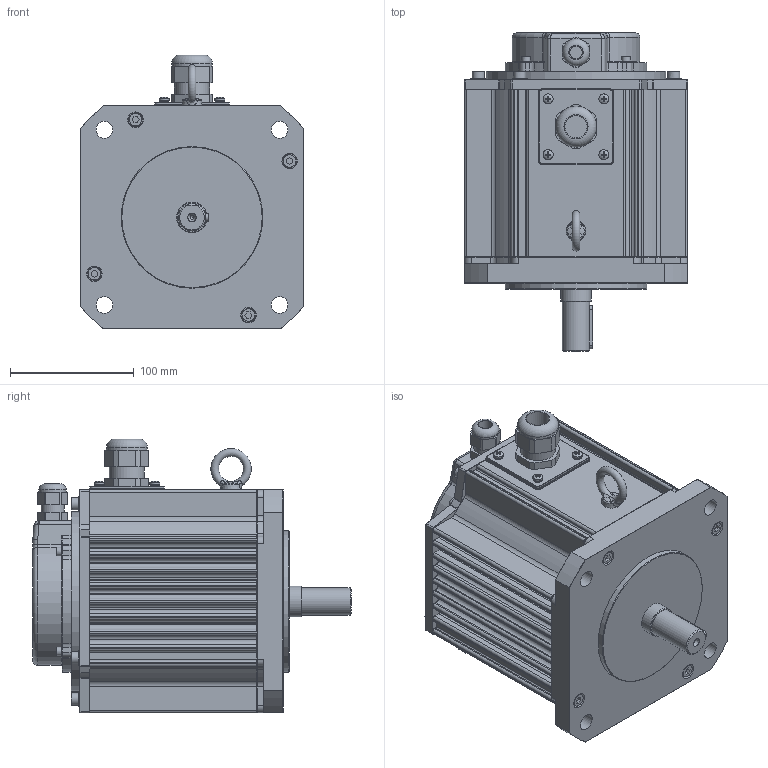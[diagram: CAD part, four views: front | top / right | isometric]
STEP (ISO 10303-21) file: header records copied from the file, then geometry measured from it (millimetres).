
FILE_DESCRIPTION(('STEP AP203'),'1');
FILE_NAME('B152E-D4R.stp','2021-04-21T01:33:29',(' '),(' '),'Spatial InterOp 3D',' ',' ');
FILE_SCHEMA(('CONFIG_CONTROL_DESIGN'));
Length unit declared in the file: millimetre
Products named in the file (1): B152E-D4R
Bounding box: 180 x 257 x 221 mm (x, y, z)
Volume: 4844407.3 mm3; surface area: 264861.8 mm2
Topology: 1 solids, 11 shells, 1632 faces, 3875 edges, 2320 vertices
Faces by surface type: plane 824, cone 374, cylinder 347, torus 73, bspline 10, sphere 4
Full cylindrical faces by diameter (mm): 3.15 x1, 4 x8, 4.2 x2, 4.5 x8, 5 x8, 6 x9, 6.5 x8, 6.75 x1, 7 x4, 8 x4, 10 x9, 10.5 x1, 12.5 x4, 13.5 x4, 18 x1, 18.5 x1, 18.6 x1, 22 x2, 24.8 x1, 28.3 x2, 29 x1, 33 x1, 41 x1, 114.3 x1, 145 x1
Entity records: 49287 total; most frequent: CARTESIAN_POINT 12107, DIRECTION 8026, ORIENTED_EDGE 7376, EDGE_CURVE 3688, AXIS2_PLACEMENT_3D 2928, VERTEX_POINT 2255, LINE 2170, VECTOR 2170
